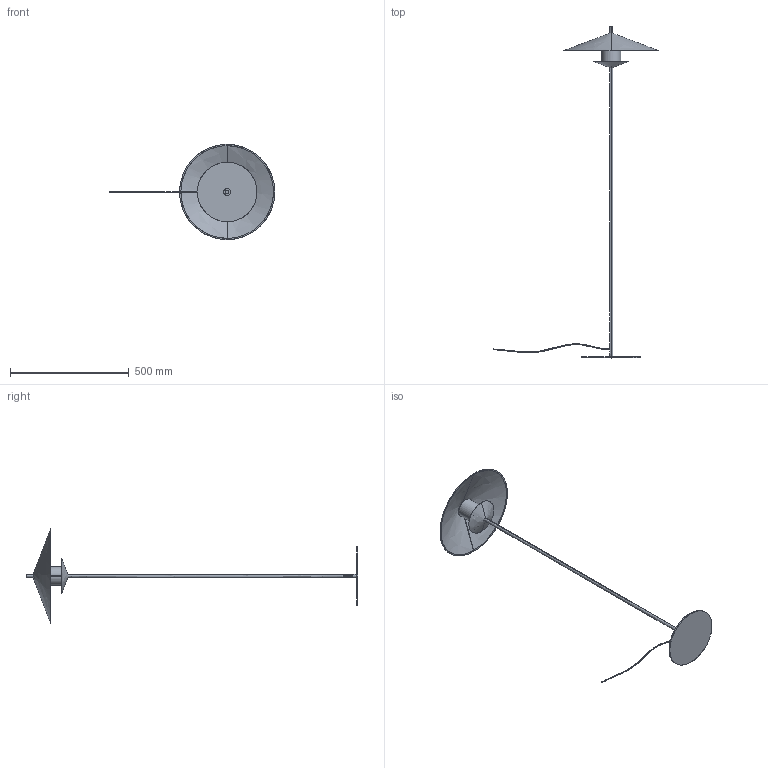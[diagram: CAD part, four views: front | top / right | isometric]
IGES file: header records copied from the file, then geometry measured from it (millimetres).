
Start section: SolidWorks IGES file using analytic representation for surfaces
Global section: file name: C:\Users\Agustin\Desktop\ARNOLD\SEPT 2025\2D-3D DEFINITIVO ONEDRIVE\2D-3D GEHIT_P1350\GEHIT_P1350.IGS; native system: SolidWorks 2018; preprocessor: SolidWorks 2018; author: Agustin; date: 250905.174312; units: millimetre
Bounding box: 695.58 x 1395.02 x 400 mm (x, y, z)
Surface area: 533077.7 mm2 (no closed solid volume)
Topology: 0 solids, 0 shells, 45 faces, 1298 edges, 1290 vertices
Faces by surface type: revolution 26, bspline 19
